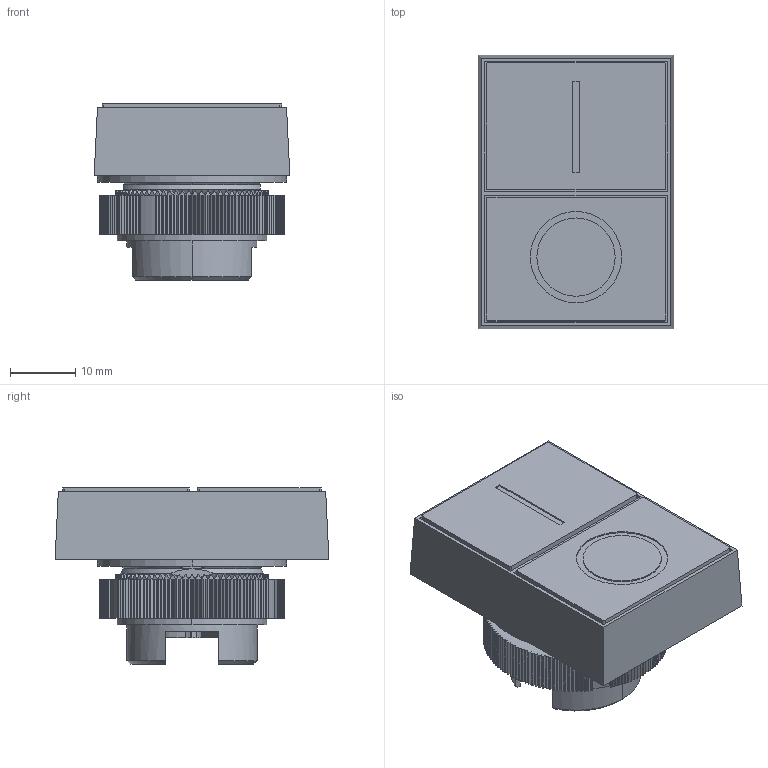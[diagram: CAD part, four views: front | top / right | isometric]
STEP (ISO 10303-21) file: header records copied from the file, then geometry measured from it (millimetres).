
FILE_DESCRIPTION (( 'STEP AP214' ), '1' );
FILE_NAME ('3D 斁麧錪 MTB2-EL83.STEP', '2017-08-29T12:07:14', ( '' ), ( '' ), 'SwSTEP 2.0', 'SolidWorks 2011', '' );
FILE_SCHEMA (( 'AUTOMOTIVE_DESIGN' ));
Length unit declared in the file: millimetre
Products named in the file (4): 3D 斁麧錪 MTB2-EL83; Êîëüöî-ãàéêà; 暑朦鲱 箫腩蝽栩咫铄; MTB2-EL83
Assembly tree (3 placements, depth 2):
  3D 斁麧錪 MTB2-EL83
    MTB2-EL83
    暑朦鲱 箫腩蝽栩咫铄
    Êîëüöî-ãàéêà
Bounding box: 30 x 42 x 27 mm (x, y, z)
Volume: 18159.5 mm3; surface area: 10429.4 mm2
Topology: 3 solids, 5 shells, 845 faces, 2410 edges, 1590 vertices
Faces by surface type: plane 531, cylinder 195, bspline 74, cone 45
Entity records: 36825 total; most frequent: CARTESIAN_POINT 12069, ORIENTED_EDGE 4820, DIRECTION 3848, EDGE_CURVE 2410, VERTEX_POINT 1590, LINE 1366, VECTOR 1366, AXIS2_PLACEMENT_3D 1241
